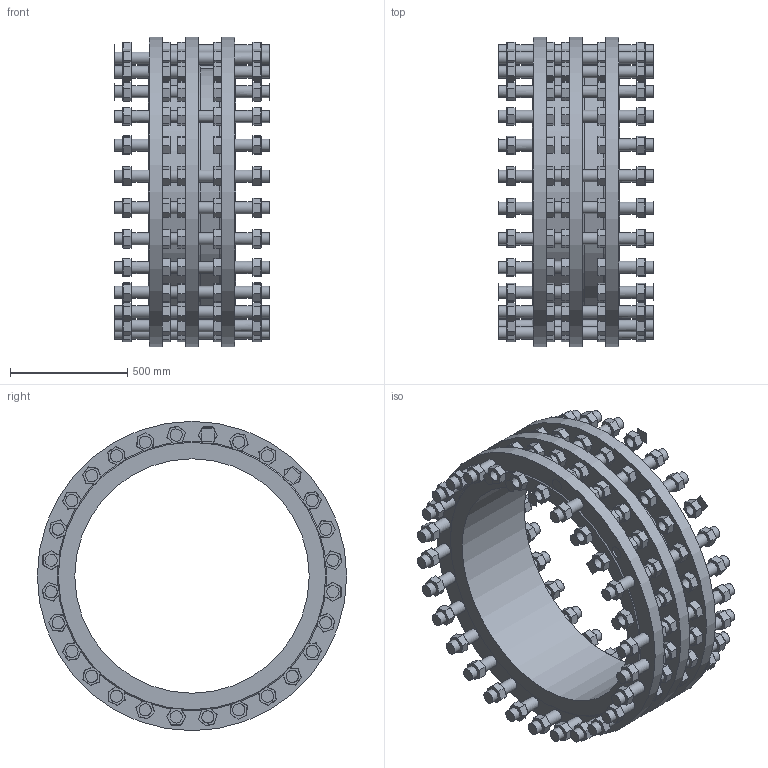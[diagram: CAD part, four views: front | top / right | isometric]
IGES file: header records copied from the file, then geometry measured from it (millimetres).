
Start section: SolidWorks IGES file using analytic representation for surfaces
Global section: file name: X:\AR\CV\873\873-1000-00-741000\873100000741000.IGS; native system: SolidWorks 2020; preprocessor: SolidWorks 2020; author: m.lucatello; date: 211105.112432; units: millimetre
Bounding box: 660 x 1320 x 1320 mm (x, y, z)
Surface area: 10131866.7 mm2 (no closed solid volume)
Topology: 0 solids, 0 shells, 3129 faces, 13144 edges, 12882 vertices
Faces by surface type: bspline 2865, revolution 264
